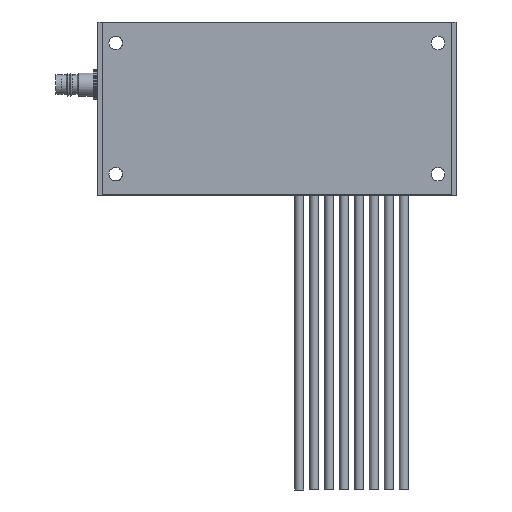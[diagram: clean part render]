
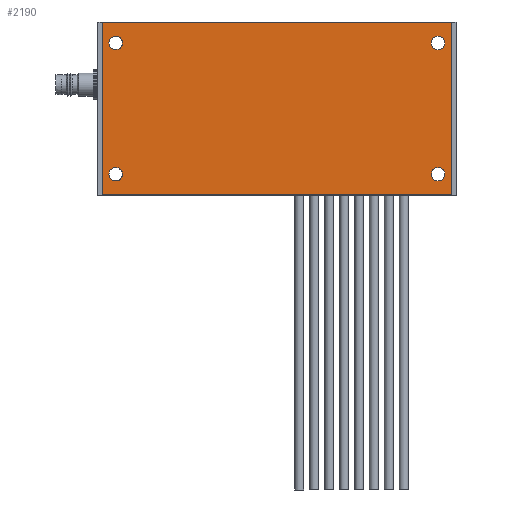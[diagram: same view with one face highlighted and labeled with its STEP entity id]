
A CAD part, left-side view. The second image highlights one B-rep face of the part: STEP entity #2190.
In plain terms, the highlighted planar face has unit normal (-1, -0.001, 0).
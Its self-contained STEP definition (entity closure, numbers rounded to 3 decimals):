
#61 = CIRCLE ( 'NONE', #5323, 2.25 ) ;
#70 = EDGE_LOOP ( 'NONE', ( #2259, #1572 ) ) ;
#162 = FACE_BOUND ( 'NONE', #3427, .T. ) ;
#199 = ORIENTED_EDGE ( 'NONE', *, *, #5301, .T. ) ;
#209 = CIRCLE ( 'NONE', #4875, 2.25 ) ;
#242 = AXIS2_PLACEMENT_3D ( 'NONE', #1750, #4800, #2192 ) ;
#295 = FACE_BOUND ( 'NONE', #5426, .T. ) ;
#389 = ORIENTED_EDGE ( 'NONE', *, *, #2635, .T. ) ;
#425 = VERTEX_POINT ( 'NONE', #623 ) ;
#447 = CIRCLE ( 'NONE', #2332, 2.25 ) ;
#478 = CARTESIAN_POINT ( 'NONE',  ( -229.063, -67.826, 150.644 ) ) ;
#481 = DIRECTION ( 'NONE',  ( 0., 0., -1. ) ) ;
#568 = FACE_OUTER_BOUND ( 'NONE', #1149, .T. ) ;
#576 = CARTESIAN_POINT ( 'NONE',  ( -228.932, -175.826, 150.644 ) ) ;
#592 = CARTESIAN_POINT ( 'NONE',  ( -229.063, -67.826, 194.644 ) ) ;
#623 = CARTESIAN_POINT ( 'NONE',  ( -229.063, -67.826, 152.894 ) ) ;
#771 = VECTOR ( 'NONE', #481, 1000. ) ;
#808 = EDGE_CURVE ( 'NONE', #3112, #5216, #3126, .T. ) ;
#840 = PLANE ( 'NONE',  #5586 ) ;
#915 = DIRECTION ( 'NONE',  ( 0., 0., 1. ) ) ;
#933 = VERTEX_POINT ( 'NONE', #2179 ) ;
#983 = EDGE_CURVE ( 'NONE', #933, #425, #3192, .T. ) ;
#1038 = DIRECTION ( 'NONE',  ( 0., 0., 1. ) ) ;
#1094 = CARTESIAN_POINT ( 'NONE',  ( -229.068, -63.326, 201.644 ) ) ;
#1149 = EDGE_LOOP ( 'NONE', ( #2996, #3828, #4090, #3003 ) ) ;
#1152 = CARTESIAN_POINT ( 'NONE',  ( -228.927, -180.326, 201.644 ) ) ;
#1161 = CARTESIAN_POINT ( 'NONE',  ( -228.932, -175.826, 152.894 ) ) ;
#1282 = EDGE_CURVE ( 'NONE', #5216, #3112, #447, .T. ) ;
#1291 = CIRCLE ( 'NONE', #5431, 2.25 ) ;
#1325 = FACE_BOUND ( 'NONE', #70, .T. ) ;
#1348 = VERTEX_POINT ( 'NONE', #1550 ) ;
#1484 = EDGE_LOOP ( 'NONE', ( #199, #5550 ) ) ;
#1493 = CARTESIAN_POINT ( 'NONE',  ( -229.063, -67.826, 194.644 ) ) ;
#1532 = DIRECTION ( 'NONE',  ( 0., 0., -1. ) ) ;
#1539 = DIRECTION ( 'NONE',  ( 1., 0.001, 0. ) ) ;
#1550 = CARTESIAN_POINT ( 'NONE',  ( -228.932, -175.826, 196.894 ) ) ;
#1572 = ORIENTED_EDGE ( 'NONE', *, *, #983, .T. ) ;
#1642 = CARTESIAN_POINT ( 'NONE',  ( -228.932, -175.826, 150.644 ) ) ;
#1643 = ORIENTED_EDGE ( 'NONE', *, *, #5048, .T. ) ;
#1711 = DIRECTION ( 'NONE',  ( 0., 0., 1. ) ) ;
#1750 = CARTESIAN_POINT ( 'NONE',  ( -228.932, -175.826, 194.644 ) ) ;
#1909 = EDGE_CURVE ( 'NONE', #4050, #2176, #3859, .T. ) ;
#1933 = DIRECTION ( 'NONE',  ( 0., 0., 1. ) ) ;
#1945 = CARTESIAN_POINT ( 'NONE',  ( -228.855, -239.577, 143.82 ) ) ;
#2028 = DIRECTION ( 'NONE',  ( 1., 0.001, 0. ) ) ;
#2149 = DIRECTION ( 'NONE',  ( 1., 0.001, 0. ) ) ;
#2176 = VERTEX_POINT ( 'NONE', #4325 ) ;
#2179 = CARTESIAN_POINT ( 'NONE',  ( -229.063, -67.826, 148.394 ) ) ;
#2190 = ADVANCED_FACE ( 'NONE', ( #3646, #162, #295, #1325, #568 ), #840, .F. ) ;
#2192 = DIRECTION ( 'NONE',  ( 0., 0., 1. ) ) ;
#2221 = CARTESIAN_POINT ( 'NONE',  ( -228.932, -175.826, 194.644 ) ) ;
#2237 = CARTESIAN_POINT ( 'NONE',  ( -228.855, -239.577, 201.644 ) ) ;
#2259 = ORIENTED_EDGE ( 'NONE', *, *, #3693, .T. ) ;
#2268 = EDGE_CURVE ( 'NONE', #4562, #4050, #4259, .T. ) ;
#2332 = AXIS2_PLACEMENT_3D ( 'NONE', #576, #1539, #5084 ) ;
#2467 = CIRCLE ( 'NONE', #242, 2.25 ) ;
#2477 = CARTESIAN_POINT ( 'NONE',  ( -229.063, -67.826, 196.894 ) ) ;
#2511 = AXIS2_PLACEMENT_3D ( 'NONE', #592, #3647, #1038 ) ;
#2525 = DIRECTION ( 'NONE',  ( 0., 0., 1. ) ) ;
#2548 = CARTESIAN_POINT ( 'NONE',  ( -228.927, -180.326, 143.82 ) ) ;
#2614 = CARTESIAN_POINT ( 'NONE',  ( -229.063, -67.826, 192.394 ) ) ;
#2635 = EDGE_CURVE ( 'NONE', #4607, #3052, #5547, .T. ) ;
#2674 = DIRECTION ( 'NONE',  ( 0., 0., 1. ) ) ;
#2698 = VECTOR ( 'NONE', #2820, 1000. ) ;
#2728 = VERTEX_POINT ( 'NONE', #1094 ) ;
#2731 = EDGE_CURVE ( 'NONE', #2728, #2176, #3979, .T. ) ;
#2820 = DIRECTION ( 'NONE',  ( -0.001, 1., 0. ) ) ;
#2824 = VECTOR ( 'NONE', #1532, 1000. ) ;
#2996 = ORIENTED_EDGE ( 'NONE', *, *, #2268, .F. ) ;
#3003 = ORIENTED_EDGE ( 'NONE', *, *, #1909, .F. ) ;
#3052 = VERTEX_POINT ( 'NONE', #2614 ) ;
#3060 = EDGE_CURVE ( 'NONE', #4696, #1348, #2467, .T. ) ;
#3112 = VERTEX_POINT ( 'NONE', #3377 ) ;
#3126 = CIRCLE ( 'NONE', #3437, 2.25 ) ;
#3141 = VECTOR ( 'NONE', #4852, 1000. ) ;
#3192 = CIRCLE ( 'NONE', #3616, 2.25 ) ;
#3279 = CARTESIAN_POINT ( 'NONE',  ( -229.068, -63.326, 143.82 ) ) ;
#3377 = CARTESIAN_POINT ( 'NONE',  ( -228.932, -175.826, 148.394 ) ) ;
#3427 = EDGE_LOOP ( 'NONE', ( #4128, #4416 ) ) ;
#3437 = AXIS2_PLACEMENT_3D ( 'NONE', #1642, #4258, #2525 ) ;
#3537 = DIRECTION ( 'NONE',  ( 1., 0.001, 0. ) ) ;
#3540 = CARTESIAN_POINT ( 'NONE',  ( -228.927, -180.326, 143.82 ) ) ;
#3616 = AXIS2_PLACEMENT_3D ( 'NONE', #478, #3537, #915 ) ;
#3646 = FACE_BOUND ( 'NONE', #1484, .T. ) ;
#3647 = DIRECTION ( 'NONE',  ( 1., 0.001, 0. ) ) ;
#3693 = EDGE_CURVE ( 'NONE', #425, #933, #209, .T. ) ;
#3828 = ORIENTED_EDGE ( 'NONE', *, *, #5338, .T. ) ;
#3859 = LINE ( 'NONE', #1945, #2698 ) ;
#3979 = LINE ( 'NONE', #3279, #2824 ) ;
#4050 = VERTEX_POINT ( 'NONE', #2548 ) ;
#4090 = ORIENTED_EDGE ( 'NONE', *, *, #2731, .T. ) ;
#4128 = ORIENTED_EDGE ( 'NONE', *, *, #1282, .T. ) ;
#4258 = DIRECTION ( 'NONE',  ( 1., 0.001, 0. ) ) ;
#4259 = LINE ( 'NONE', #3540, #771 ) ;
#4296 = LINE ( 'NONE', #2237, #3141 ) ;
#4325 = CARTESIAN_POINT ( 'NONE',  ( -229.068, -63.326, 143.82 ) ) ;
#4416 = ORIENTED_EDGE ( 'NONE', *, *, #808, .T. ) ;
#4546 = DIRECTION ( 'NONE',  ( 1., 0.001, 0. ) ) ;
#4562 = VERTEX_POINT ( 'NONE', #1152 ) ;
#4607 = VERTEX_POINT ( 'NONE', #2477 ) ;
#4644 = CARTESIAN_POINT ( 'NONE',  ( -229.063, -67.826, 150.644 ) ) ;
#4696 = VERTEX_POINT ( 'NONE', #4721 ) ;
#4721 = CARTESIAN_POINT ( 'NONE',  ( -228.932, -175.826, 192.394 ) ) ;
#4800 = DIRECTION ( 'NONE',  ( 1., 0.001, 0. ) ) ;
#4852 = DIRECTION ( 'NONE',  ( -0.001, 1., 0. ) ) ;
#4875 = AXIS2_PLACEMENT_3D ( 'NONE', #4644, #2028, #5076 ) ;
#5048 = EDGE_CURVE ( 'NONE', #3052, #4607, #1291, .T. ) ;
#5076 = DIRECTION ( 'NONE',  ( 0., 0., 1. ) ) ;
#5084 = DIRECTION ( 'NONE',  ( 0., 0., 1. ) ) ;
#5202 = CARTESIAN_POINT ( 'NONE',  ( -228.855, -239.577, 143.82 ) ) ;
#5216 = VERTEX_POINT ( 'NONE', #1161 ) ;
#5282 = DIRECTION ( 'NONE',  ( 1., 0.001, 0. ) ) ;
#5301 = EDGE_CURVE ( 'NONE', #1348, #4696, #61, .T. ) ;
#5323 = AXIS2_PLACEMENT_3D ( 'NONE', #2221, #5282, #2674 ) ;
#5338 = EDGE_CURVE ( 'NONE', #4562, #2728, #4296, .T. ) ;
#5426 = EDGE_LOOP ( 'NONE', ( #389, #1643 ) ) ;
#5431 = AXIS2_PLACEMENT_3D ( 'NONE', #1493, #4546, #1933 ) ;
#5547 = CIRCLE ( 'NONE', #2511, 2.25 ) ;
#5550 = ORIENTED_EDGE ( 'NONE', *, *, #3060, .T. ) ;
#5586 = AXIS2_PLACEMENT_3D ( 'NONE', #5202, #2149, #1711 ) ;
